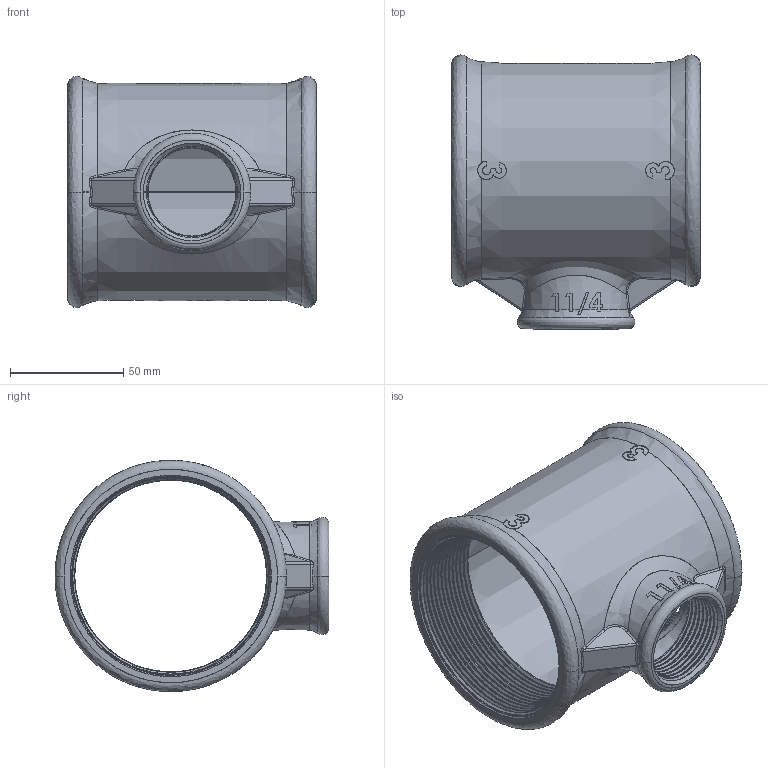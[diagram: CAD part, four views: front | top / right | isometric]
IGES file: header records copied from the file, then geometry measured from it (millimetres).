
Start section: SolidWorks IGES file using analytic representation for surfaces
Global section: file name: C:\Users\Joel Rosa\Desktop\Tubulação\12-45-XXX\12-45-053.IGS; native system: SolidWorks 2011; preprocessor: SolidWorks 2011; author: Joel Rosa; date: 121212.234710; units: millimetre
Bounding box: 110 x 121.2 x 102.39 mm (x, y, z)
Surface area: 84987.3 mm2 (no closed solid volume)
Topology: 0 solids, 0 shells, 542 faces, 5191 edges, 5191 vertices
Faces by surface type: bspline 373, revolution 169
